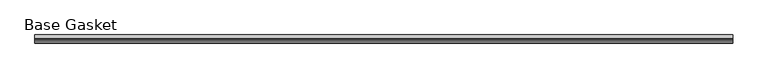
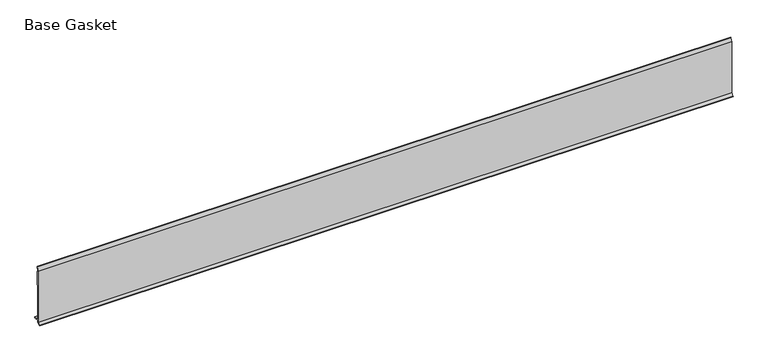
"""IFC4 building model written with IfcOpenShell, lengths in millimetres: furniture geometry, Gasket-Teknion-FHGB-AI_Healthcare-R2021 : Base Gasket."""

import ifcopenshell
import ifcopenshell.guid

model = None  # the IFC model being written
_history = None  # IfcOwnerHistory: only IFC2X3 demands one
_inside = {}  # id of a spatial element -> (the spatial element, [elements in it])
_under = {}  # id of a project, library or spatial element -> (it, [spatial elements below it])
_declared = {}  # id of a project -> (the project, [libraries it declares])
_typed = {}  # id of a type object -> (the type object, [elements of that type])
_made_of = {}  # id of a material, layer set ... -> (it, [elements and type objects made of it])


def new_model(schema):
    """Start an empty IFC model of exactly this schema.

    Asked for "IFC4X3", IfcOpenShell would pick the latest addendum, in which some entities
    have other attributes; the version numbers below select the first issue.
    IFC2X3 requires an IfcOwnerHistory on every rooted entity: one is made here for all.
    """
    global model, _history
    if schema == "IFC4X3":
        model = ifcopenshell.file(schema_version=(4, 3, 0, 0))
    else:
        model = ifcopenshell.file(schema=schema)
    _inside.clear()
    _under.clear()
    _declared.clear()
    _typed.clear()
    _made_of.clear()
    _history = None
    if model.schema == "IFC2X3":
        org = make("IfcOrganization", Name="unknown")
        user = make(
            "IfcPersonAndOrganization",
            ThePerson=make("IfcPerson", FamilyName="unknown"),
            TheOrganization=org,
        )
        app = make(
            "IfcApplication",
            ApplicationDeveloper=org,
            Version="unknown",
            ApplicationFullName="unknown",
            ApplicationIdentifier="unknown",
        )
        _history = make(
            "IfcOwnerHistory",
            OwningUser=user,
            OwningApplication=app,
            ChangeAction="ADDED",
            CreationDate=0,
        )
    return model


def make(cls, **values):
    """One entity of the class cls with the attributes given. An attribute that is None is left unset."""
    return model.create_entity(
        cls, **{name: value for name, value in values.items() if value is not None}
    )


def rooted(cls, **values):
    """An entity with a GlobalId (a new one), such as an element, a storey or a relation."""
    return make(cls, GlobalId=ifcopenshell.guid.new(), OwnerHistory=_history, **values)


def si_unit(unit_type, name, prefix=None):
    """IfcSIUnit, for example si_unit("LENGTHUNIT", "METRE", prefix="MILLI")."""
    return make("IfcSIUnit", UnitType=unit_type, Prefix=prefix, Name=name)


def assignment(units):
    """IfcUnitAssignment: the units of a project."""
    return None if units is None else make("IfcUnitAssignment", Units=units)


def point(xyz):
    """IfcCartesianPoint."""
    return None if xyz is None else make("IfcCartesianPoint", Coordinates=xyz)


def direction(xyz):
    """IfcDirection."""
    return None if xyz is None else make("IfcDirection", DirectionRatios=xyz)


def frame(location, z_axis=None, x_axis=None):
    """IfcAxis2Placement3D, a coordinate frame: its origin and axes. An axis left out is left unset."""
    return make(
        "IfcAxis2Placement3D",
        Location=point(location),
        Axis=direction(z_axis),
        RefDirection=direction(x_axis),
    )


def origin():
    """The frame at (0, 0, 0) with its axes left unset."""
    return frame((0.0, 0.0, 0.0))


def place(relative_to, where):
    """IfcLocalPlacement: puts the frame where relative to a parent placement (None: the world)."""
    return make(
        "IfcLocalPlacement", PlacementRelTo=relative_to, RelativePlacement=where
    )


def context(
    kind, dimensions, precision=None, world=None, true_north=None, identifier=None
):
    """IfcGeometricRepresentationContext, for example the 3D "Model" context."""
    return make(
        "IfcGeometricRepresentationContext",
        ContextIdentifier=identifier,
        ContextType=kind,
        CoordinateSpaceDimension=dimensions,
        Precision=precision,
        WorldCoordinateSystem=world,
        TrueNorth=true_north,
    )


def project(units=None, contexts=None):
    """IfcProject with its units and contexts."""
    return rooted(
        "IfcProject",
        Name="project",
        RepresentationContexts=contexts,
        UnitsInContext=assignment(units),
    )


def spatial(cls, under=None, at=None, **own):
    """A site, building, storey or space (cls), placed at a placement, below another one or the project."""
    s = rooted(cls, ObjectPlacement=at, **own)
    if under is not None:
        _under.setdefault(under.id(), (under, []))[1].append(s)
    return s


def polyline(points):
    """IfcPolyline through the points."""
    return make("IfcPolyline", Points=[point(p) for p in points])


def outline(outer, holes=None, kind="AREA"):
    """IfcArbitraryClosedProfileDef: a profile drawn as a closed curve; with holes, ...WithVoids."""
    if holes is None:
        return make("IfcArbitraryClosedProfileDef", ProfileType=kind, OuterCurve=outer)
    return make(
        "IfcArbitraryProfileDefWithVoids",
        ProfileType=kind,
        OuterCurve=outer,
        InnerCurves=holes,
    )


def extrude(swept, where, along, depth):
    """IfcExtrudedAreaSolid: the profile swept, set in the frame where, extruded along a direction by depth."""
    return make(
        "IfcExtrudedAreaSolid",
        SweptArea=swept,
        Position=where,
        ExtrudedDirection=direction(along),
        Depth=depth,
    )


def shape(context_of_items, identifier, shape_type, items):
    """IfcShapeRepresentation: the items that make up one representation, for example the "Body"."""
    return make(
        "IfcShapeRepresentation",
        ContextOfItems=context_of_items,
        RepresentationIdentifier=identifier,
        RepresentationType=shape_type,
        Items=items,
    )


def source(mapping_origin, context_of_items, identifier, shape_type, items):
    """IfcRepresentationMap: a shape defined once, which mapped items show again and again."""
    return make(
        "IfcRepresentationMap",
        MappingOrigin=mapping_origin,
        MappedRepresentation=shape(context_of_items, identifier, shape_type, items),
    )


def transform(
    local_origin,
    x_axis=None,
    y_axis=None,
    z_axis=None,
    scale=None,
    scale2=None,
    scale3=None,
    uniform=True,
):
    """IfcCartesianTransformationOperator3D, or its non-uniform kind. x_axis, y_axis, z_axis: its Axis1, 2, 3."""
    if uniform:
        return make(
            "IfcCartesianTransformationOperator3D",
            Axis1=direction(x_axis),
            Axis2=direction(y_axis),
            LocalOrigin=point(local_origin),
            Scale=scale,
            Axis3=direction(z_axis),
        )
    return make(
        "IfcCartesianTransformationOperator3DnonUniform",
        Axis1=direction(x_axis),
        Axis2=direction(y_axis),
        LocalOrigin=point(local_origin),
        Scale=scale,
        Axis3=direction(z_axis),
        Scale2=scale2,
        Scale3=scale3,
    )


def mapped(mapping_source, mapping_target):
    """IfcMappedItem: shows the shape of a source again, moved by a transform."""
    return make(
        "IfcMappedItem", MappingSource=mapping_source, MappingTarget=mapping_target
    )


def made_of(thing, what):
    """Note that an element or type object is made of a material, layer set ...; save() writes the relation."""
    if what is not None:
        _made_of.setdefault(what.id(), (what, []))[1].append(thing)
    return thing


def element(
    cls,
    number,
    at=None,
    inside=None,
    cuts=None,
    type_object=None,
    material=None,
    context=None,
    identifier="Body",
    shape_type=None,
    held_by="IfcProductDefinitionShape",
    body=None,
    shapes=None,
    **own,
):
    """One element of the class cls, such as IfcWall. Its Tag is "e" and its number.

    at: its placement. inside: the storey or other place that contains it. cuts: it is an
    opening in that element (IfcRelVoidsElement). A single representation is given by context,
    identifier, shape_type and body (its items); several are given by shapes. held_by: the class
    of the entity that holds the representations. save() writes the other relations.
    """
    e = rooted(cls, Tag="e%d" % number, ObjectPlacement=at, **own)
    if body is not None:
        shapes = [shape(context, identifier, shape_type, body)]
    if shapes is not None:
        e.Representation = make(held_by, Representations=shapes)
    if inside is not None:
        _inside.setdefault(inside.id(), (inside, []))[1].append(e)
    if cuts is not None:
        rooted(
            "IfcRelVoidsElement", RelatingBuildingElement=cuts, RelatedOpeningElement=e
        )
    if type_object is not None:
        _typed.setdefault(type_object.id(), (type_object, []))[1].append(e)
    return made_of(e, material)


def aggregate(whole, parts):
    """IfcRelAggregates: a whole, such as a stair, and the parts it consists of."""
    return rooted("IfcRelAggregates", RelatingObject=whole, RelatedObjects=parts)


def save(model, path):
    """Write the relations noted so far, then the file.

    IfcRelAggregates (storeys below a building ...), IfcRelContainedInSpatialStructure (elements
    in a storey), IfcRelDefinesByType, IfcRelAssociatesMaterial and IfcRelDeclares: one each for
    every whole, place, type object, material and project.
    """
    for whole, parts in _under.values():
        aggregate(whole, parts)
    for where, things in _inside.values():
        rooted(
            "IfcRelContainedInSpatialStructure",
            RelatedElements=things,
            RelatingStructure=where,
        )
    for kind, things in _typed.values():
        rooted("IfcRelDefinesByType", RelatedObjects=things, RelatingType=kind)
    for what, things in _made_of.values():
        rooted("IfcRelAssociatesMaterial", RelatedObjects=things, RelatingMaterial=what)
    for by, libraries in _declared.values():
        rooted("IfcRelDeclares", RelatingContext=by, RelatedDefinitions=libraries)
    model.write(path)


def base_gasket_7cb7eb19(model_context):
    return source(origin(), model_context, "Body", "SweptSolid", [
        extrude(outline(polyline([(-3.7283812, 98.4568417), (-1.1891543, 104.587663), (-0.6755308, 105.2002997), (-0.6755308, 104.4162708), (-2.2043812, 98.4568417), (-2.2043812, 96.8693477), (-1.4106313, 96.8693477), (-1.4106313, 71.4693447), (-2.2043812, 71.4693447), (-2.2043812, 7.9398773), (6.2405171, 7.9398773), (6.2405171, 6.3818476), (-2.1334222, 6.3818476), (-2.2043812, 4.3498477), (-6.8281054, 0.3520979), (-7.8482342, 0.0), (-7.4222115, 0.6560174), (-3.7283812, 4.3498477), (-3.7283812, 98.4568417)])), frame((-1527.8982117, 0.0, 0.0), z_axis=(1.0, 0.0, 0.0), x_axis=(0.0, 1.0, 0.0)), (0.0, 0.0, 1.0), 1210.2924882),
    ])


if __name__ == "__main__":
    model = new_model("IFC4")
    model_context = context("Model", 3, world=origin())
    ifc_project = project(units=[si_unit("LENGTHUNIT", "METRE", prefix="MILLI")], contexts=[model_context])
    site = spatial("IfcSite", under=ifc_project)
    building = spatial("IfcBuilding", under=site)
    placement = place(None, origin())
    base_gasket_shape = base_gasket_7cb7eb19(model_context)
    element("IfcFurniture", 1, ObjectType="Gasket-Teknion-FHGB-AI_Healthcare-R2021 : Base Gasket", at=placement, inside=building, context=model_context, shape_type="MappedRepresentation", body=[
        mapped(base_gasket_shape, transform((0.0, 0.0, 0.0), x_axis=(1.0, 0.0, 0.0), y_axis=(0.0, 1.0, 0.0), z_axis=(0.0, 0.0, 1.0))),
    ])
    save(model, "model.ifc")
